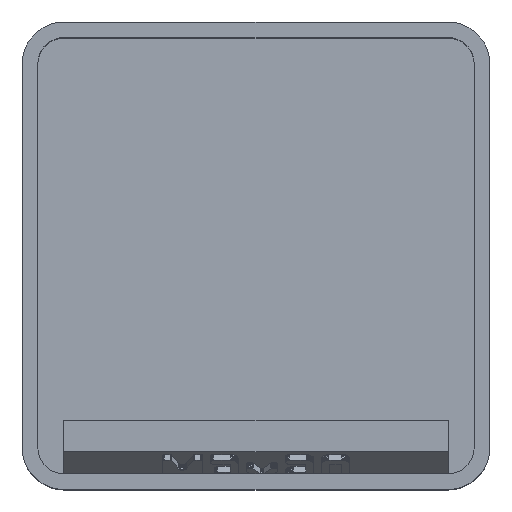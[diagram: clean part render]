
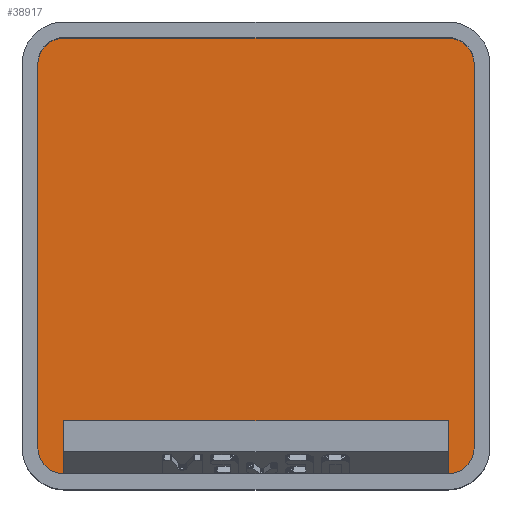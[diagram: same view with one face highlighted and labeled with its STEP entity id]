
A CAD part, top view. The second image highlights one B-rep face of the part: STEP entity #38917.
In plain terms, the highlighted planar face has unit normal (0, 0, 1).
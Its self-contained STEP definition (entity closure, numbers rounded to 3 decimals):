
#912 = PLANE('',#913);
#913 = AXIS2_PLACEMENT_3D('',#914,#915,#916);
#914 = CARTESIAN_POINT('',(-19.6,0.,30.));
#915 = DIRECTION('',(-1.,0.,0.));
#916 = DIRECTION('',(-0.,-1.,-0.));
#940 = CYLINDRICAL_SURFACE('',#941,2.35);
#941 = AXIS2_PLACEMENT_3D('',#942,#943,#944);
#942 = CARTESIAN_POINT('',(-17.25,17.25,5.95));
#943 = DIRECTION('',(-0.,-0.,1.));
#944 = DIRECTION('',(-1.,0.,0.));
#967 = PLANE('',#968);
#968 = AXIS2_PLACEMENT_3D('',#969,#970,#971);
#969 = CARTESIAN_POINT('',(0.,19.6,30.));
#970 = DIRECTION('',(0.,1.,0.));
#971 = DIRECTION('',(-1.,0.,0.));
#995 = CYLINDRICAL_SURFACE('',#996,2.35);
#996 = AXIS2_PLACEMENT_3D('',#997,#998,#999);
#997 = CARTESIAN_POINT('',(17.25,17.25,5.95));
#998 = DIRECTION('',(-0.,-0.,1.));
#999 = DIRECTION('',(-1.,0.,0.));
#1022 = PLANE('',#1023);
#1023 = AXIS2_PLACEMENT_3D('',#1024,#1025,#1026);
#1024 = CARTESIAN_POINT('',(19.6,0.,30.));
#1025 = DIRECTION('',(1.,0.,0.));
#1026 = DIRECTION('',(-0.,1.,0.));
#1050 = CYLINDRICAL_SURFACE('',#1051,2.35);
#1051 = AXIS2_PLACEMENT_3D('',#1052,#1053,#1054);
#1052 = CARTESIAN_POINT('',(17.25,-17.25,5.95));
#1053 = DIRECTION('',(-0.,-0.,1.));
#1054 = DIRECTION('',(-1.,0.,0.));
#1103 = CYLINDRICAL_SURFACE('',#1104,2.35);
#1104 = AXIS2_PLACEMENT_3D('',#1105,#1106,#1107);
#1105 = CARTESIAN_POINT('',(-17.25,-17.25,5.95));
#1106 = DIRECTION('',(-0.,-0.,1.));
#1107 = DIRECTION('',(-1.,0.,0.));
#14459 = EDGE_CURVE('',#14460,#14462,#14464,.T.);
#14460 = VERTEX_POINT('',#14461);
#14461 = CARTESIAN_POINT('',(-19.6,-17.25,5.95));
#14462 = VERTEX_POINT('',#14463);
#14463 = CARTESIAN_POINT('',(-19.6,17.25,5.95));
#14464 = SURFACE_CURVE('',#14465,(#14469,#14476),.PCURVE_S1.);
#14465 = LINE('',#14466,#14467);
#14466 = CARTESIAN_POINT('',(-19.6,0.,5.95));
#14467 = VECTOR('',#14468,1.);
#14468 = DIRECTION('',(0.,1.,0.));
#14469 = PCURVE('',#912,#14470);
#14470 = DEFINITIONAL_REPRESENTATION('',(#14471),#14475);
#14471 = LINE('',#14472,#14473);
#14472 = CARTESIAN_POINT('',(0.,-24.05));
#14473 = VECTOR('',#14474,1.);
#14474 = DIRECTION('',(-1.,0.));
#14475 = ( GEOMETRIC_REPRESENTATION_CONTEXT(2) 
PARAMETRIC_REPRESENTATION_CONTEXT() REPRESENTATION_CONTEXT('2D SPACE',''
  ) );
#14476 = PCURVE('',#14477,#14482);
#14477 = PLANE('',#14478);
#14478 = AXIS2_PLACEMENT_3D('',#14479,#14480,#14481);
#14479 = CARTESIAN_POINT('',(-17.25,-17.25,5.95));
#14480 = DIRECTION('',(0.,0.,-1.));
#14481 = DIRECTION('',(-1.,0.,0.));
#14482 = DEFINITIONAL_REPRESENTATION('',(#14483),#14487);
#14483 = LINE('',#14484,#14485);
#14484 = CARTESIAN_POINT('',(2.35,17.25));
#14485 = VECTOR('',#14486,1.);
#14486 = DIRECTION('',(0.,1.));
#14487 = ( GEOMETRIC_REPRESENTATION_CONTEXT(2) 
PARAMETRIC_REPRESENTATION_CONTEXT() REPRESENTATION_CONTEXT('2D SPACE',''
  ) );
#14534 = EDGE_CURVE('',#14535,#14460,#14537,.T.);
#14535 = VERTEX_POINT('',#14536);
#14536 = CARTESIAN_POINT('',(-17.25,-19.6,5.95));
#14537 = SURFACE_CURVE('',#14538,(#14543,#14550),.PCURVE_S1.);
#14538 = CIRCLE('',#14539,2.35);
#14539 = AXIS2_PLACEMENT_3D('',#14540,#14541,#14542);
#14540 = CARTESIAN_POINT('',(-17.25,-17.25,5.95));
#14541 = DIRECTION('',(0.,0.,-1.));
#14542 = DIRECTION('',(-1.,0.,0.));
#14543 = PCURVE('',#1103,#14544);
#14544 = DEFINITIONAL_REPRESENTATION('',(#14545),#14549);
#14545 = LINE('',#14546,#14547);
#14546 = CARTESIAN_POINT('',(6.283,0.));
#14547 = VECTOR('',#14548,1.);
#14548 = DIRECTION('',(-1.,0.));
#14549 = ( GEOMETRIC_REPRESENTATION_CONTEXT(2) 
PARAMETRIC_REPRESENTATION_CONTEXT() REPRESENTATION_CONTEXT('2D SPACE',''
  ) );
#14550 = PCURVE('',#14477,#14551);
#14551 = DEFINITIONAL_REPRESENTATION('',(#14552),#14556);
#14552 = CIRCLE('',#14553,2.35);
#14553 = AXIS2_PLACEMENT_2D('',#14554,#14555);
#14554 = CARTESIAN_POINT('',(0.,0.));
#14555 = DIRECTION('',(1.,0.));
#14556 = ( GEOMETRIC_REPRESENTATION_CONTEXT(2) 
PARAMETRIC_REPRESENTATION_CONTEXT() REPRESENTATION_CONTEXT('2D SPACE',''
  ) );
#14574 = PLANE('',#14575);
#14575 = AXIS2_PLACEMENT_3D('',#14576,#14577,#14578);
#14576 = CARTESIAN_POINT('',(0.,-19.6,30.));
#14577 = DIRECTION('',(0.,-1.,0.));
#14578 = DIRECTION('',(1.,0.,0.));
#14661 = EDGE_CURVE('',#14662,#14664,#14666,.T.);
#14662 = VERTEX_POINT('',#14663);
#14663 = CARTESIAN_POINT('',(19.6,-17.25,5.95));
#14664 = VERTEX_POINT('',#14665);
#14665 = CARTESIAN_POINT('',(17.25,-19.6,5.95));
#14666 = SURFACE_CURVE('',#14667,(#14672,#14679),.PCURVE_S1.);
#14667 = CIRCLE('',#14668,2.35);
#14668 = AXIS2_PLACEMENT_3D('',#14669,#14670,#14671);
#14669 = CARTESIAN_POINT('',(17.25,-17.25,5.95));
#14670 = DIRECTION('',(0.,0.,-1.));
#14671 = DIRECTION('',(-1.,0.,0.));
#14672 = PCURVE('',#1050,#14673);
#14673 = DEFINITIONAL_REPRESENTATION('',(#14674),#14678);
#14674 = LINE('',#14675,#14676);
#14675 = CARTESIAN_POINT('',(6.283,0.));
#14676 = VECTOR('',#14677,1.);
#14677 = DIRECTION('',(-1.,0.));
#14678 = ( GEOMETRIC_REPRESENTATION_CONTEXT(2) 
PARAMETRIC_REPRESENTATION_CONTEXT() REPRESENTATION_CONTEXT('2D SPACE',''
  ) );
#14679 = PCURVE('',#14477,#14680);
#14680 = DEFINITIONAL_REPRESENTATION('',(#14681),#14685);
#14681 = CIRCLE('',#14682,2.35);
#14682 = AXIS2_PLACEMENT_2D('',#14683,#14684);
#14683 = CARTESIAN_POINT('',(-34.5,0.));
#14684 = DIRECTION('',(1.,0.));
#14685 = ( GEOMETRIC_REPRESENTATION_CONTEXT(2) 
PARAMETRIC_REPRESENTATION_CONTEXT() REPRESENTATION_CONTEXT('2D SPACE',''
  ) );
#14759 = EDGE_CURVE('',#14662,#14760,#14762,.T.);
#14760 = VERTEX_POINT('',#14761);
#14761 = CARTESIAN_POINT('',(19.6,17.25,5.95));
#14762 = SURFACE_CURVE('',#14763,(#14767,#14774),.PCURVE_S1.);
#14763 = LINE('',#14764,#14765);
#14764 = CARTESIAN_POINT('',(19.6,0.,5.95));
#14765 = VECTOR('',#14766,1.);
#14766 = DIRECTION('',(0.,1.,0.));
#14767 = PCURVE('',#1022,#14768);
#14768 = DEFINITIONAL_REPRESENTATION('',(#14769),#14773);
#14769 = LINE('',#14770,#14771);
#14770 = CARTESIAN_POINT('',(0.,-24.05));
#14771 = VECTOR('',#14772,1.);
#14772 = DIRECTION('',(1.,0.));
#14773 = ( GEOMETRIC_REPRESENTATION_CONTEXT(2) 
PARAMETRIC_REPRESENTATION_CONTEXT() REPRESENTATION_CONTEXT('2D SPACE',''
  ) );
#14774 = PCURVE('',#14477,#14775);
#14775 = DEFINITIONAL_REPRESENTATION('',(#14776),#14780);
#14776 = LINE('',#14777,#14778);
#14777 = CARTESIAN_POINT('',(-36.85,17.25));
#14778 = VECTOR('',#14779,1.);
#14779 = DIRECTION('',(0.,1.));
#14780 = ( GEOMETRIC_REPRESENTATION_CONTEXT(2) 
PARAMETRIC_REPRESENTATION_CONTEXT() REPRESENTATION_CONTEXT('2D SPACE',''
  ) );
#14807 = EDGE_CURVE('',#14808,#14760,#14810,.T.);
#14808 = VERTEX_POINT('',#14809);
#14809 = CARTESIAN_POINT('',(17.25,19.6,5.95));
#14810 = SURFACE_CURVE('',#14811,(#14816,#14823),.PCURVE_S1.);
#14811 = CIRCLE('',#14812,2.35);
#14812 = AXIS2_PLACEMENT_3D('',#14813,#14814,#14815);
#14813 = CARTESIAN_POINT('',(17.25,17.25,5.95));
#14814 = DIRECTION('',(0.,0.,-1.));
#14815 = DIRECTION('',(-1.,0.,0.));
#14816 = PCURVE('',#995,#14817);
#14817 = DEFINITIONAL_REPRESENTATION('',(#14818),#14822);
#14818 = LINE('',#14819,#14820);
#14819 = CARTESIAN_POINT('',(6.283,0.));
#14820 = VECTOR('',#14821,1.);
#14821 = DIRECTION('',(-1.,0.));
#14822 = ( GEOMETRIC_REPRESENTATION_CONTEXT(2) 
PARAMETRIC_REPRESENTATION_CONTEXT() REPRESENTATION_CONTEXT('2D SPACE',''
  ) );
#14823 = PCURVE('',#14477,#14824);
#14824 = DEFINITIONAL_REPRESENTATION('',(#14825),#14829);
#14825 = CIRCLE('',#14826,2.35);
#14826 = AXIS2_PLACEMENT_2D('',#14827,#14828);
#14827 = CARTESIAN_POINT('',(-34.5,34.5));
#14828 = DIRECTION('',(1.,0.));
#14829 = ( GEOMETRIC_REPRESENTATION_CONTEXT(2) 
PARAMETRIC_REPRESENTATION_CONTEXT() REPRESENTATION_CONTEXT('2D SPACE',''
  ) );
#14857 = EDGE_CURVE('',#14858,#14808,#14860,.T.);
#14858 = VERTEX_POINT('',#14859);
#14859 = CARTESIAN_POINT('',(-17.25,19.6,5.95));
#14860 = SURFACE_CURVE('',#14861,(#14865,#14872),.PCURVE_S1.);
#14861 = LINE('',#14862,#14863);
#14862 = CARTESIAN_POINT('',(0.,19.6,5.95));
#14863 = VECTOR('',#14864,1.);
#14864 = DIRECTION('',(1.,0.,0.));
#14865 = PCURVE('',#967,#14866);
#14866 = DEFINITIONAL_REPRESENTATION('',(#14867),#14871);
#14867 = LINE('',#14868,#14869);
#14868 = CARTESIAN_POINT('',(0.,-24.05));
#14869 = VECTOR('',#14870,1.);
#14870 = DIRECTION('',(-1.,0.));
#14871 = ( GEOMETRIC_REPRESENTATION_CONTEXT(2) 
PARAMETRIC_REPRESENTATION_CONTEXT() REPRESENTATION_CONTEXT('2D SPACE',''
  ) );
#14872 = PCURVE('',#14477,#14873);
#14873 = DEFINITIONAL_REPRESENTATION('',(#14874),#14878);
#14874 = LINE('',#14875,#14876);
#14875 = CARTESIAN_POINT('',(-17.25,36.85));
#14876 = VECTOR('',#14877,1.);
#14877 = DIRECTION('',(-1.,0.));
#14878 = ( GEOMETRIC_REPRESENTATION_CONTEXT(2) 
PARAMETRIC_REPRESENTATION_CONTEXT() REPRESENTATION_CONTEXT('2D SPACE',''
  ) );
#14906 = EDGE_CURVE('',#14462,#14858,#14907,.T.);
#14907 = SURFACE_CURVE('',#14908,(#14913,#14920),.PCURVE_S1.);
#14908 = CIRCLE('',#14909,2.35);
#14909 = AXIS2_PLACEMENT_3D('',#14910,#14911,#14912);
#14910 = CARTESIAN_POINT('',(-17.25,17.25,5.95));
#14911 = DIRECTION('',(0.,0.,-1.));
#14912 = DIRECTION('',(-1.,0.,0.));
#14913 = PCURVE('',#940,#14914);
#14914 = DEFINITIONAL_REPRESENTATION('',(#14915),#14919);
#14915 = LINE('',#14916,#14917);
#14916 = CARTESIAN_POINT('',(6.283,0.));
#14917 = VECTOR('',#14918,1.);
#14918 = DIRECTION('',(-1.,0.));
#14919 = ( GEOMETRIC_REPRESENTATION_CONTEXT(2) 
PARAMETRIC_REPRESENTATION_CONTEXT() REPRESENTATION_CONTEXT('2D SPACE',''
  ) );
#14920 = PCURVE('',#14477,#14921);
#14921 = DEFINITIONAL_REPRESENTATION('',(#14922),#14926);
#14922 = CIRCLE('',#14923,2.35);
#14923 = AXIS2_PLACEMENT_2D('',#14924,#14925);
#14924 = CARTESIAN_POINT('',(0.,34.5));
#14925 = DIRECTION('',(1.,0.));
#14926 = ( GEOMETRIC_REPRESENTATION_CONTEXT(2) 
PARAMETRIC_REPRESENTATION_CONTEXT() REPRESENTATION_CONTEXT('2D SPACE',''
  ) );
#38917 = ADVANCED_FACE('',(#38918),#14477,.F.);
#38918 = FACE_BOUND('',#38919,.T.);
#38919 = EDGE_LOOP('',(#38920,#38921,#38922,#38943,#38944,#38945,#38946,
    #38947));
#38920 = ORIENTED_EDGE('',*,*,#14459,.F.);
#38921 = ORIENTED_EDGE('',*,*,#14534,.F.);
#38922 = ORIENTED_EDGE('',*,*,#38923,.T.);
#38923 = EDGE_CURVE('',#14535,#14664,#38924,.T.);
#38924 = SURFACE_CURVE('',#38925,(#38929,#38936),.PCURVE_S1.);
#38925 = LINE('',#38926,#38927);
#38926 = CARTESIAN_POINT('',(0.,-19.6,5.95));
#38927 = VECTOR('',#38928,1.);
#38928 = DIRECTION('',(1.,0.,0.));
#38929 = PCURVE('',#14477,#38930);
#38930 = DEFINITIONAL_REPRESENTATION('',(#38931),#38935);
#38931 = LINE('',#38932,#38933);
#38932 = CARTESIAN_POINT('',(-17.25,-2.35));
#38933 = VECTOR('',#38934,1.);
#38934 = DIRECTION('',(-1.,0.));
#38935 = ( GEOMETRIC_REPRESENTATION_CONTEXT(2) 
PARAMETRIC_REPRESENTATION_CONTEXT() REPRESENTATION_CONTEXT('2D SPACE',''
  ) );
#38936 = PCURVE('',#14574,#38937);
#38937 = DEFINITIONAL_REPRESENTATION('',(#38938),#38942);
#38938 = LINE('',#38939,#38940);
#38939 = CARTESIAN_POINT('',(0.,-24.05));
#38940 = VECTOR('',#38941,1.);
#38941 = DIRECTION('',(1.,0.));
#38942 = ( GEOMETRIC_REPRESENTATION_CONTEXT(2) 
PARAMETRIC_REPRESENTATION_CONTEXT() REPRESENTATION_CONTEXT('2D SPACE',''
  ) );
#38943 = ORIENTED_EDGE('',*,*,#14661,.F.);
#38944 = ORIENTED_EDGE('',*,*,#14759,.T.);
#38945 = ORIENTED_EDGE('',*,*,#14807,.F.);
#38946 = ORIENTED_EDGE('',*,*,#14857,.F.);
#38947 = ORIENTED_EDGE('',*,*,#14906,.F.);
